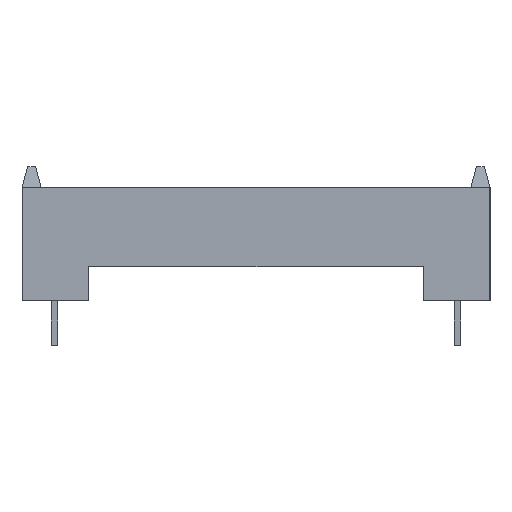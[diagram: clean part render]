
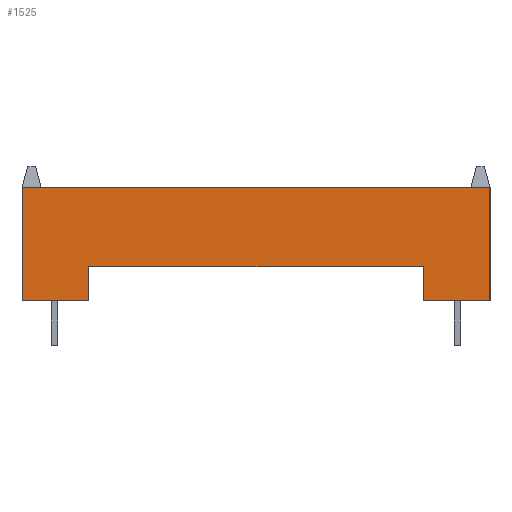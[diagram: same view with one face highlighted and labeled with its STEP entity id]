
A CAD part, front view. The second image highlights one B-rep face of the part: STEP entity #1525.
In plain terms, the highlighted planar face has unit normal (0, -1, 0).
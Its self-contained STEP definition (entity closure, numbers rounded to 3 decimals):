
#1525=ADVANCED_FACE('',(#5104),#5106,.T.);
#5104=FACE_BOUND('',#5105,.T.);
#5105=EDGE_LOOP('',(#7756,#7757,#7758,#7759,#7760,#7761,#7762,#7763,#7764,#7765));
#5106=PLANE('',#5107);
#5107=AXIS2_PLACEMENT_3D('',#5108,#5109,#5110);
#5108=CARTESIAN_POINT('',(-8.9,-25.4,0.));
#5109=DIRECTION('',(0.,-1.,0.));
#5110=DIRECTION('',(1.,0.,0.));
#7756=ORIENTED_EDGE('',*,*,#9563,.F.);
#7757=ORIENTED_EDGE('',*,*,#9564,.F.);
#7758=ORIENTED_EDGE('',*,*,#9069,.T.);
#7759=ORIENTED_EDGE('',*,*,#9561,.T.);
#7760=ORIENTED_EDGE('',*,*,#9565,.T.);
#7761=ORIENTED_EDGE('',*,*,#9566,.F.);
#7762=ORIENTED_EDGE('',*,*,#9154,.T.);
#7763=ORIENTED_EDGE('',*,*,#9567,.T.);
#7764=ORIENTED_EDGE('',*,*,#9568,.F.);
#7765=ORIENTED_EDGE('',*,*,#9569,.F.);
#9069=EDGE_CURVE('',#10135,#10132,#10136,.T.);
#9154=EDGE_CURVE('',#10305,#10303,#10306,.T.);
#9561=EDGE_CURVE('',#10132,#10957,#10959,.T.);
#9563=EDGE_CURVE('',#10961,#10962,#10963,.F.);
#9564=EDGE_CURVE('',#10135,#10961,#10964,.T.);
#9565=EDGE_CURVE('',#10957,#10965,#10966,.T.);
#9566=EDGE_CURVE('',#10305,#10965,#10967,.T.);
#9567=EDGE_CURVE('',#10303,#10968,#10969,.T.);
#9568=EDGE_CURVE('',#10970,#10968,#10971,.F.);
#9569=EDGE_CURVE('',#10962,#10970,#10972,.T.);
#10132=VERTEX_POINT('',#11876);
#10135=VERTEX_POINT('',#11881);
#10136=LINE('',#11882,#11883);
#10303=VERTEX_POINT('',#12217);
#10305=VERTEX_POINT('',#12221);
#10306=LINE('',#12222,#12223);
#10957=VERTEX_POINT('',#13685);
#10959=LINE('',#13689,#13690);
#10961=VERTEX_POINT('',#13695);
#10962=VERTEX_POINT('',#13696);
#10963=LINE('',#13697,#13698);
#10964=LINE('',#13700,#13701);
#10965=VERTEX_POINT('',#13703);
#10966=LINE('',#13704,#13705);
#10967=LINE('',#13707,#13708);
#10968=VERTEX_POINT('',#13710);
#10969=LINE('',#13711,#13712);
#10970=VERTEX_POINT('',#13714);
#10971=LINE('',#13715,#13716);
#10972=LINE('',#13718,#13719);
#11876=CARTESIAN_POINT('',(-6.36,-25.4,0.));
#11881=CARTESIAN_POINT('',(-8.9,-25.4,0.));
#11882=CARTESIAN_POINT('',(-8.9,-25.4,0.));
#11883=VECTOR('',#11884,1.);
#11884=DIRECTION('',(1.,0.,0.));
#12217=CARTESIAN_POINT('',(8.9,-25.4,0.));
#12221=CARTESIAN_POINT('',(6.36,-25.4,0.));
#12222=CARTESIAN_POINT('',(6.36,-25.4,0.));
#12223=VECTOR('',#12224,1.);
#12224=DIRECTION('',(1.,0.,0.));
#13685=CARTESIAN_POINT('',(-6.36,-25.4,1.3));
#13689=CARTESIAN_POINT('',(-6.36,-25.4,0.));
#13690=VECTOR('',#13691,1.);
#13691=DIRECTION('',(0.,0.,1.));
#13695=CARTESIAN_POINT('',(-8.9,-25.4,4.3));
#13696=CARTESIAN_POINT('',(-8.17,-25.4,4.3));
#13697=CARTESIAN_POINT('',(-8.17,-25.4,4.3));
#13698=VECTOR('',#13699,1.);
#13699=DIRECTION('',(-1.,0.,0.));
#13700=CARTESIAN_POINT('',(-8.9,-25.4,0.));
#13701=VECTOR('',#13702,1.);
#13702=DIRECTION('',(0.,0.,1.));
#13703=CARTESIAN_POINT('',(6.36,-25.4,1.3));
#13704=CARTESIAN_POINT('',(-6.36,-25.4,1.3));
#13705=VECTOR('',#13706,1.);
#13706=DIRECTION('',(1.,0.,0.));
#13707=CARTESIAN_POINT('',(6.36,-25.4,0.));
#13708=VECTOR('',#13709,1.);
#13709=DIRECTION('',(0.,0.,1.));
#13710=CARTESIAN_POINT('',(8.9,-25.4,4.3));
#13711=CARTESIAN_POINT('',(8.9,-25.4,0.));
#13712=VECTOR('',#13713,1.);
#13713=DIRECTION('',(0.,0.,1.));
#13714=CARTESIAN_POINT('',(8.17,-25.4,4.3));
#13715=CARTESIAN_POINT('',(8.9,-25.4,4.3));
#13716=VECTOR('',#13717,1.);
#13717=DIRECTION('',(-1.,0.,0.));
#13718=CARTESIAN_POINT('',(-8.17,-25.4,4.3));
#13719=VECTOR('',#13720,1.);
#13720=DIRECTION('',(1.,0.,0.));
